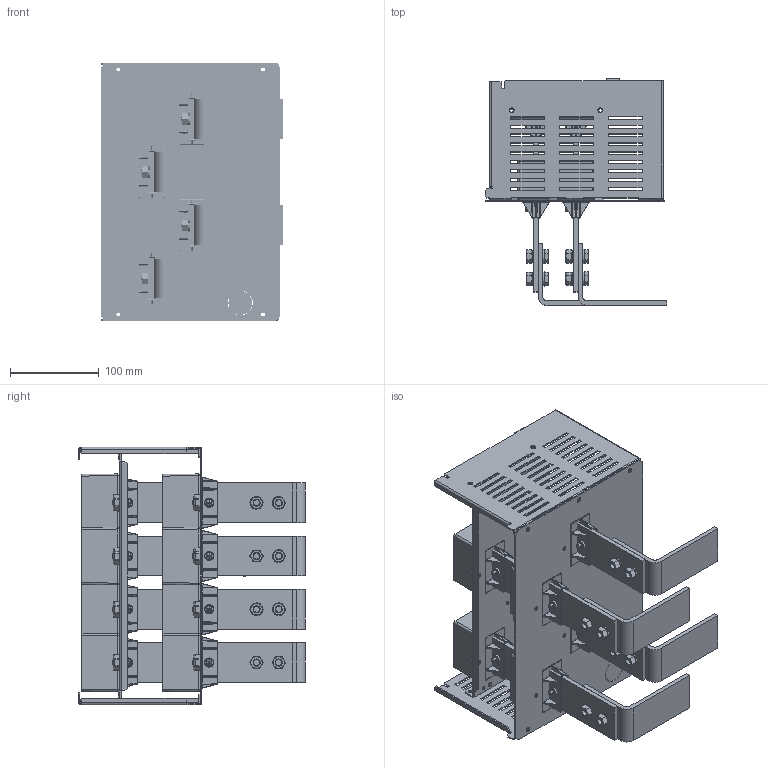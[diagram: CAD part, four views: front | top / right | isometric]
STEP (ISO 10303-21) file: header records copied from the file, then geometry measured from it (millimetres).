
FILE_DESCRIPTION(('CAx-IF Rec.Pracs.---Model Styling and Organization---1.2---2011-12-15','CAx-IF Rec.Pracs.---Geometric and Assembly Validation Properties---4.1---2014-06-16','CAx-IF Rec.Pracs.---PMI Polyline Presentation---2.0---2013-05-24'),'2;1');
FILE_NAME('R5M2W6MRT3B.stp','2021-05-05T13:07:14+03:00',(''),(''),'STEP Interface 4.4 by CT CoreTechnologie','3D_Evolution4.4 by CT CoreTechnologie','');
FILE_SCHEMA(('AUTOMOTIVE_DESIGN { 1 0 10303 214 1 1 1 1 }'));
Length unit declared in the file: millimetre
Products named in the file (15): R5M2W6MRT3B; Ì8  DIN934 ÑÌ110800INOX; A.8.01-GOST 11371-78 (DIN 125A) (CM240800)_ ©¡  A.8.016  11371-78; RB.1584.00.00.1_-02; Ì4-GOST R 50273-92 (DIN 985)_thread; M8x25-DIN 933_thread; RB.1585.00.00.0_-01; V02.ÒÏÀ.08.0042.00.00.0_¤«ï ¨­áâàãªæ¨¨ ¡¥§ ¯ «ìæ; V02.ÒÏÀ.08.0042.00.00.0_¤«ï ¨­áâàãªæ¨¨ ¯ «¥æ; 8 DIN127 ÑÌ130800INOX; RB.1242.00.00.0_-03; RB.1217.00.00.0_-00; RB.1465.00.00.0_-00; RB.1466.00.00.1_-03; RB.1465.00.00.0_-01
Assembly tree (75 placements, depth 2):
  R5M2W6MRT3B
    Ì8  DIN934 ÑÌ110800INOX  x8
    A.8.01-GOST 11371-78 (DIN 125A) (CM240800)_ ©¡  A.8.016  11371-78  x8
    RB.1584.00.00.1_-02  x4
    Ì4-GOST R 50273-92 (DIN 985)_thread  x16
    M8x25-DIN 933_thread  x8
    RB.1585.00.00.0_-01  x4
    V02.ÒÏÀ.08.0042.00.00.0_¤«ï ¨­áâàãªæ¨¨ ¡¥§ ¯ «ìæ  x8
    V02.ÒÏÀ.08.0042.00.00.0_¤«ï ¨­áâàãªæ¨¨ ¯ «¥æ  x8
    8 DIN127 ÑÌ130800INOX  x5
    RB.1242.00.00.0_-03
    RB.1217.00.00.0_-00  x2
    RB.1465.00.00.0_-00
    RB.1466.00.00.1_-03
    RB.1465.00.00.0_-01
Bounding box: 205 x 255.5 x 290 mm (x, y, z)
Surface area: 705354.9 mm2 (no closed solid volume)
Topology: 0 solids, 91 shells, 4514 faces, 11355 edges, 7007 vertices
Faces by surface type: plane 1796, bspline 1428, cylinder 1290
Entity records: 48266 total; most frequent: CARTESIAN_POINT 18703, ORIENTED_EDGE 5910, DIRECTION 5588, EDGE_CURVE 2955, VECTOR 2044, LINE 2044, VERTEX_POINT 1898, AXIS2_PLACEMENT_3D 1772
